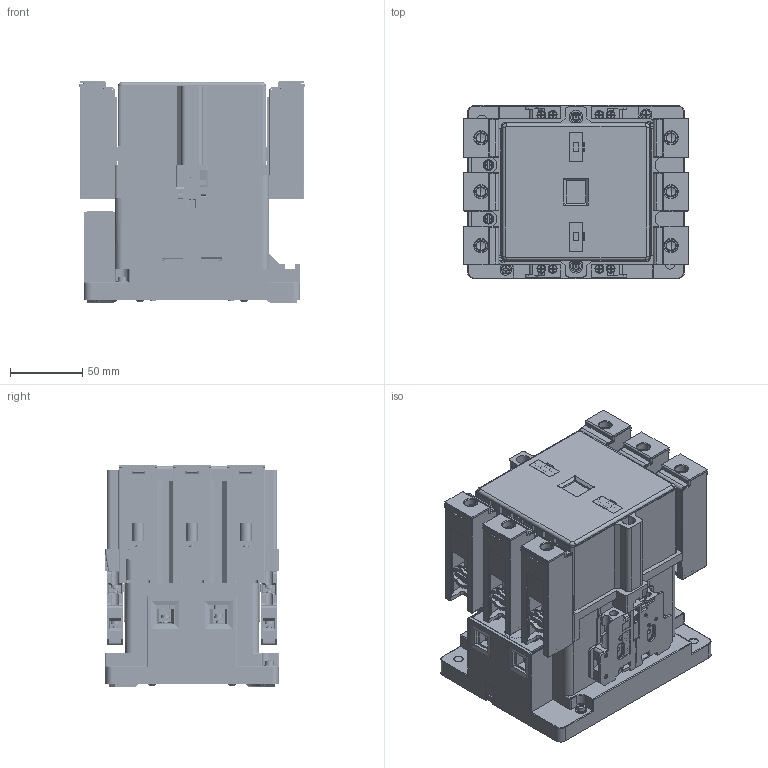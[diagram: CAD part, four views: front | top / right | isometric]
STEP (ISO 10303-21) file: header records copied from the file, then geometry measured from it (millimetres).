
FILE_DESCRIPTION((''),'2;1');
FILE_NAME('12345','2024-06-03T',('qinxiong.ji'),(''),'PRO/ENGINEER BY PARAMETRIC TECHNOLOGY CORPORATION, 2015440','PRO/ENGINEER BY PARAMETRIC TECHNOLOGY CORPORATION, 2015440','');
FILE_SCHEMA(('CONFIG_CONTROL_DESIGN'));
Products named in the file (1): 12345
Bounding box: 156.2 x 120 x 153.07 mm (x, y, z)
Volume: 1748878.8 mm3; surface area: 390981.3 mm2
Topology: 13 solids, 19 shells, 6872 faces, 19036 edges, 12252 vertices
Faces by surface type: plane 4759, cylinder 1671, cone 158, torus 142, bspline 114, sphere 28
Entity records: 227705 total; most frequent: CARTESIAN_POINT 52102, ORIENTED_EDGE 37836, DIRECTION 34881, EDGE_CURVE 18918, VECTOR 13935, LINE 13935, VERTEX_POINT 12252, AXIS2_PLACEMENT_3D 10473
